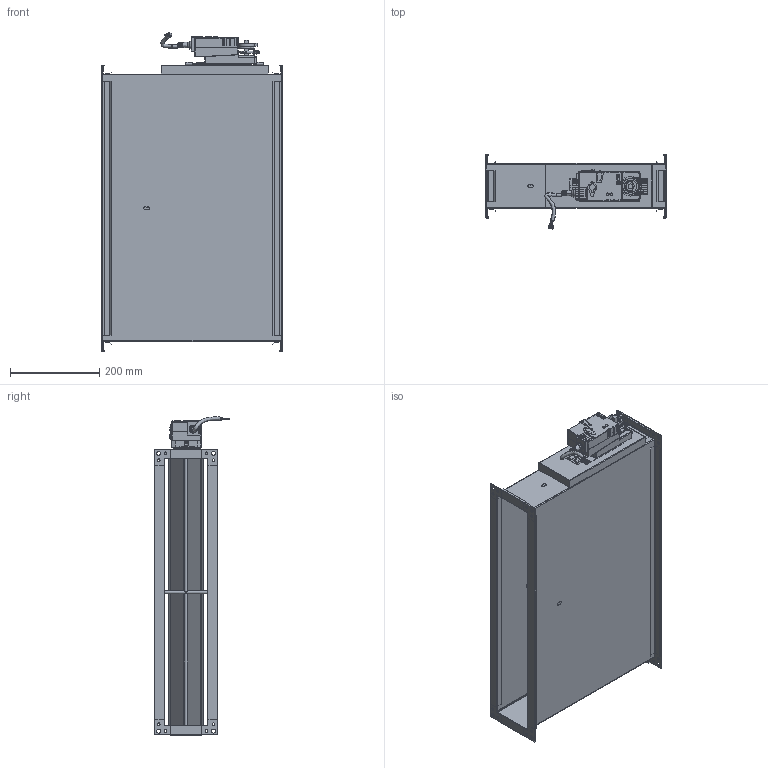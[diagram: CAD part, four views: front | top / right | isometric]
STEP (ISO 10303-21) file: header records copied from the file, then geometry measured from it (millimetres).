
FILE_DESCRIPTION (( 'STEP AP214' ), '1' );
FILE_NAME ('VAV-S600100.STEP', '2025-05-07T13:46:37', ( '' ), ( '' ), 'SwSTEP 2.0', 'SolidWorks 2025', '' );
FILE_SCHEMA (( 'AUTOMOTIVE_DESIGN' ));
Length unit declared in the file: millimetre
Products named in the file (1): VAV-S600100
Bounding box: 404.4 x 167.46 x 713.69 mm (x, y, z)
Surface area: 1887794 mm2 (no closed solid volume)
Topology: 0 solids, 48 shells, 2016 faces, 5238 edges, 3326 vertices
Faces by surface type: plane 1509, cylinder 454, bspline 24, sphere 18, cone 10, torus 1
Full cylindrical faces by diameter (mm): 1 x4, 6 x17, 8 x1, 9 x8, 11 x1, 20 x1, 21 x2
Entity records: 89285 total; most frequent: CARTESIAN_POINT 41167, ORIENTED_EDGE 10259, DIRECTION 6421, EDGE_CURVE 5153, VERTEX_POINT 3299, B_SPLINE_CURVE_WITH_KNOTS 3170, AXIS2_PLACEMENT_3D 2457, EDGE_LOOP 2213
